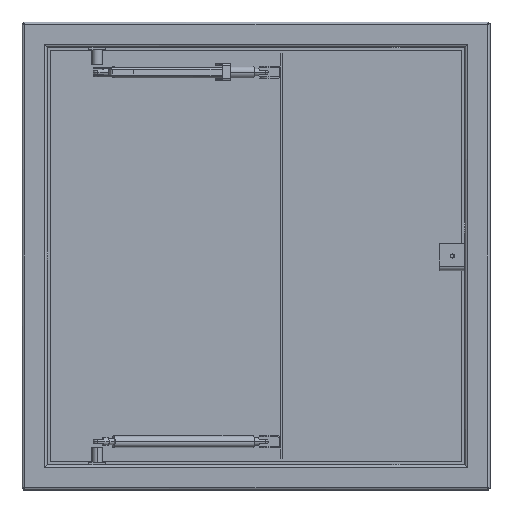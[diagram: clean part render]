
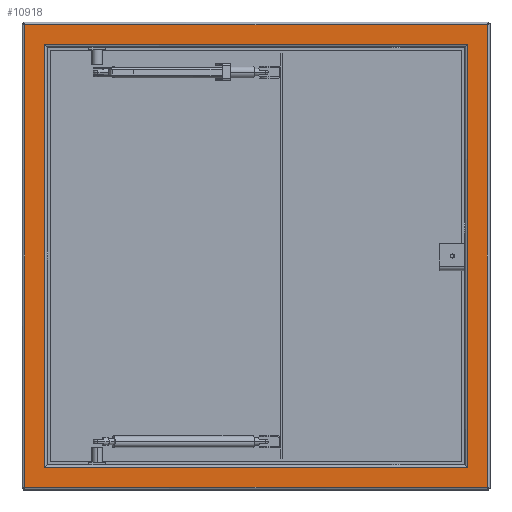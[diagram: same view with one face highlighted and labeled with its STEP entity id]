
A CAD part, front view. The second image highlights one B-rep face of the part: STEP entity #10918.
In plain terms, the highlighted planar face has unit normal (0, -1, 0).
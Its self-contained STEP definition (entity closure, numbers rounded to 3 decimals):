
#2629=DIRECTION('',(-1.,0.,0.));
#2630=VECTOR('',#2629,1107.116);
#2631=CARTESIAN_POINT('',(553.558,0.,553.558));
#2632=LINE('',#2631,#2630);
#2633=DIRECTION('',(0.,0.,1.));
#2634=VECTOR('',#2633,1107.116);
#2635=CARTESIAN_POINT('',(553.558,0.,-553.558));
#2636=LINE('',#2635,#2634);
#2637=DIRECTION('',(1.,0.,0.));
#2638=VECTOR('',#2637,1107.116);
#2639=CARTESIAN_POINT('',(-553.558,0.,-553.558));
#2640=LINE('',#2639,#2638);
#2641=DIRECTION('',(0.,0.,-1.));
#2642=VECTOR('',#2641,1107.116);
#2643=CARTESIAN_POINT('',(-553.558,0.,553.558));
#2644=LINE('',#2643,#2642);
#2645=DIRECTION('',(1.,0.,0.));
#2646=VECTOR('',#2645,1012.884);
#2647=CARTESIAN_POINT('',(-506.442,0.,-506.442));
#2648=LINE('',#2647,#2646);
#2649=DIRECTION('',(0.,0.,1.));
#2650=VECTOR('',#2649,1012.884);
#2651=CARTESIAN_POINT('',(506.442,0.,-506.442));
#2652=LINE('',#2651,#2650);
#2653=DIRECTION('',(-1.,0.,0.));
#2654=VECTOR('',#2653,1012.884);
#2655=CARTESIAN_POINT('',(506.442,0.,506.442));
#2656=LINE('',#2655,#2654);
#2657=DIRECTION('',(0.,0.,-1.));
#2658=VECTOR('',#2657,1012.884);
#2659=CARTESIAN_POINT('',(-506.442,0.,506.442));
#2660=LINE('',#2659,#2658);
#5056=CARTESIAN_POINT('',(-506.442,0.,506.442));
#5058=VERTEX_POINT('',#5056);
#5059=CARTESIAN_POINT('',(-553.558,0.,553.558));
#5061=VERTEX_POINT('',#5059);
#5063=CARTESIAN_POINT('',(-506.442,0.,-506.442));
#5065=VERTEX_POINT('',#5063);
#5068=CARTESIAN_POINT('',(-553.558,0.,-553.558));
#5070=VERTEX_POINT('',#5068);
#5095=CARTESIAN_POINT('',(506.442,0.,506.442));
#5097=VERTEX_POINT('',#5095);
#5100=CARTESIAN_POINT('',(553.558,0.,553.558));
#5102=VERTEX_POINT('',#5100);
#5104=CARTESIAN_POINT('',(506.442,0.,-506.442));
#5106=VERTEX_POINT('',#5104);
#5107=CARTESIAN_POINT('',(553.558,0.,-553.558));
#5109=VERTEX_POINT('',#5107);
#10894=CARTESIAN_POINT('',(1490.,0.,557.5));
#10895=DIRECTION('',(0.,1.,0.));
#10896=DIRECTION('',(0.,0.,-1.));
#10897=AXIS2_PLACEMENT_3D('',#10894,#10895,#10896);
#10898=PLANE('',#10897);
#10900=ORIENTED_EDGE('',*,*,#10899,.F.);
#10902=ORIENTED_EDGE('',*,*,#10901,.F.);
#10904=ORIENTED_EDGE('',*,*,#10903,.F.);
#10906=ORIENTED_EDGE('',*,*,#10905,.F.);
#10907=EDGE_LOOP('',(#10900,#10902,#10904,#10906));
#10908=FACE_OUTER_BOUND('',#10907,.F.);
#10909=ORIENTED_EDGE('',*,*,#10612,.T.);
#10911=ORIENTED_EDGE('',*,*,#10910,.T.);
#10913=ORIENTED_EDGE('',*,*,#10912,.T.);
#10915=ORIENTED_EDGE('',*,*,#10914,.T.);
#10916=EDGE_LOOP('',(#10909,#10911,#10913,#10915));
#10917=FACE_BOUND('',#10916,.F.);
#10612=EDGE_CURVE('',#5065,#5106,#2648,.T.);
#10899=EDGE_CURVE('',#5102,#5061,#2632,.T.);
#10901=EDGE_CURVE('',#5109,#5102,#2636,.T.);
#10903=EDGE_CURVE('',#5070,#5109,#2640,.T.);
#10905=EDGE_CURVE('',#5061,#5070,#2644,.T.);
#10910=EDGE_CURVE('',#5106,#5097,#2652,.T.);
#10912=EDGE_CURVE('',#5097,#5058,#2656,.T.);
#10914=EDGE_CURVE('',#5058,#5065,#2660,.T.);
#10918=ADVANCED_FACE('',(#10908,#10917),#10898,.F.);
